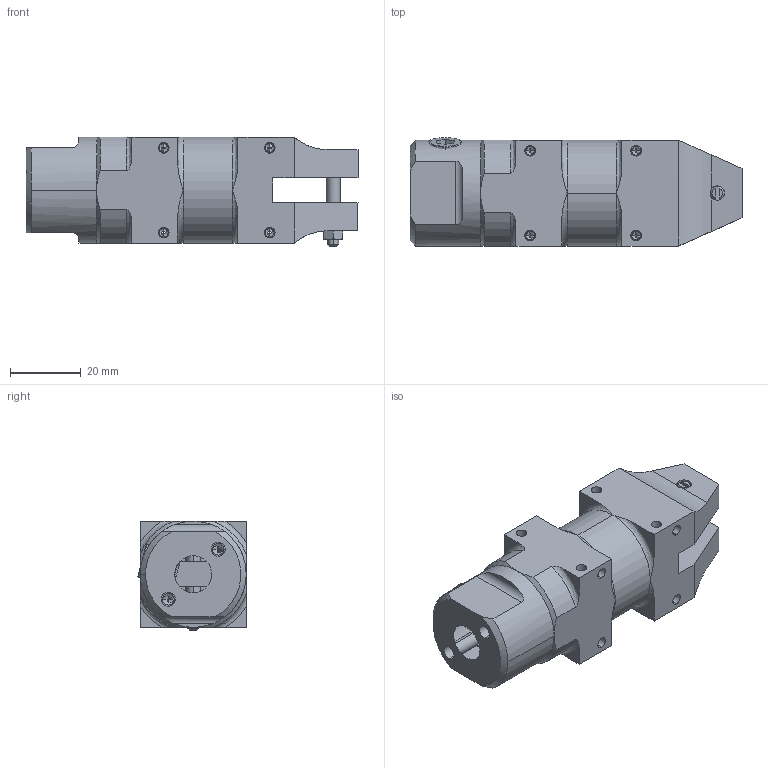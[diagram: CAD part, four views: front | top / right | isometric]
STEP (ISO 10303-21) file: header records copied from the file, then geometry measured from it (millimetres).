
FILE_DESCRIPTION (( 'STEP AP214' ), '1' );
FILE_NAME ('GT-NS5.STEP', '2019-11-27T09:30:47', ( '微软用户' ), ( '微软中国' ), 'SwSTEP 2.0', 'SolidWorks 2016', '' );
FILE_SCHEMA (( 'AUTOMOTIVE_DESIGN' ));
Length unit declared in the file: millimetre
Products named in the file (1): GT-NS5
Bounding box: 94 x 30.7 x 31 mm (x, y, z)
Surface area: 14454.3 mm2 (no closed solid volume)
Topology: 0 solids, 5 shells, 262 faces, 672 edges, 379 vertices
Faces by surface type: cylinder 98, plane 84, cone 68, bspline 10, torus 2
Entity records: 13416 total; most frequent: CARTESIAN_POINT 7476, DIRECTION 1237, ORIENTED_EDGE 1174, EDGE_CURVE 629, AXIS2_PLACEMENT_3D 493, VERTEX_POINT 376, EDGE_LOOP 305, FACE_OUTER_BOUND 260
